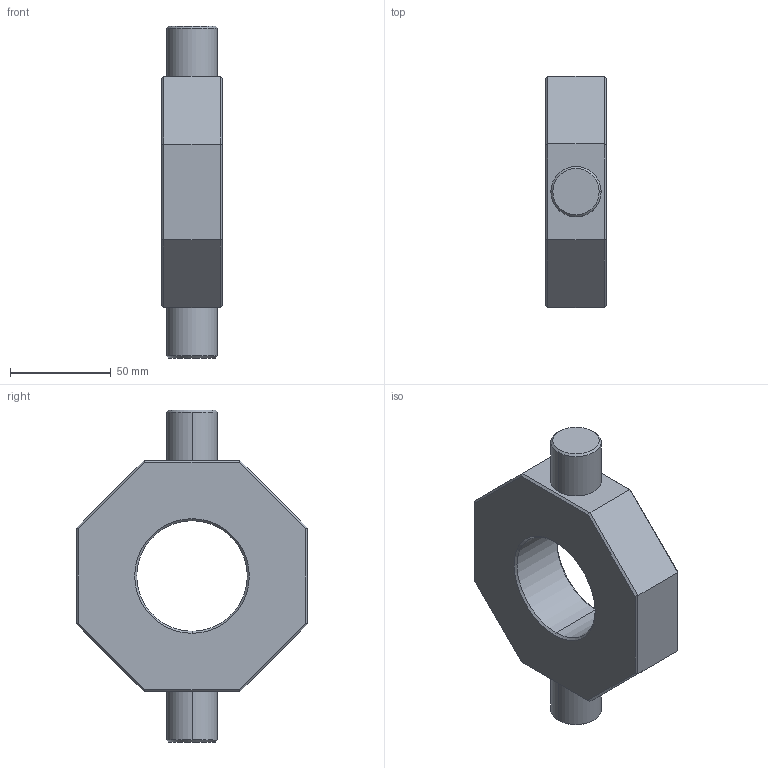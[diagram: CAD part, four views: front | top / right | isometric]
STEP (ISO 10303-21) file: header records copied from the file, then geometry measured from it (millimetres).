
FILE_DESCRIPTION (( 'STEP AP214' ), '1' );
FILE_NAME ('LB-KA-55.STEP', '2025-04-08T11:04:44', ( '' ), ( '' ), 'SwSTEP 2.0', 'SolidWorks 2023', '' );
FILE_SCHEMA (( 'AUTOMOTIVE_DESIGN' ));
Length unit declared in the file: millimetre
Products named in the file (1): LB-KA-55
Bounding box: 30 x 115 x 165 mm (x, y, z)
Volume: 279245.8 mm3; surface area: 38554.8 mm2
Topology: 1 solids, 1 shells, 78 faces, 174 edges, 94 vertices
Faces by surface type: cone 32, plane 28, cylinder 18
Entity records: 2053 total; most frequent: DIRECTION 376, CARTESIAN_POINT 335, ORIENTED_EDGE 324, EDGE_CURVE 162, AXIS2_PLACEMENT_3D 135, VECTOR 106, LINE 106, VERTEX_POINT 94
